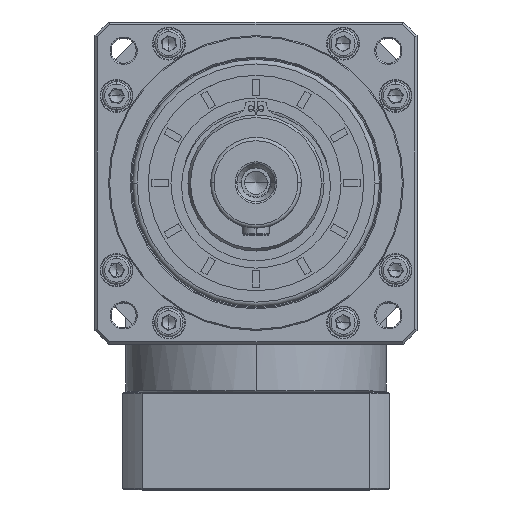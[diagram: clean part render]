
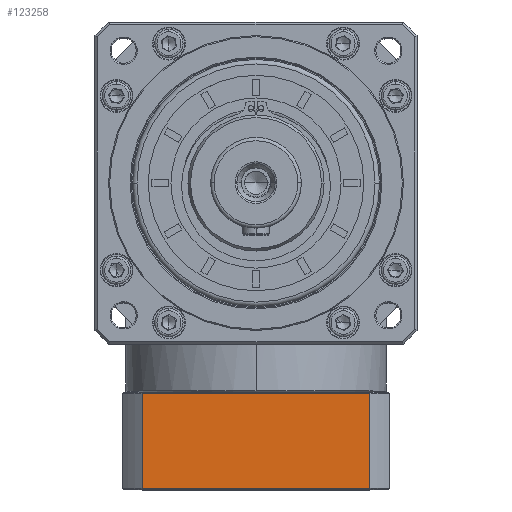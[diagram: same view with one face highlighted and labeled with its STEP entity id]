
A CAD part, top view. The second image highlights one B-rep face of the part: STEP entity #123258.
In plain terms, the highlighted planar face has unit normal (0, 0, 1).
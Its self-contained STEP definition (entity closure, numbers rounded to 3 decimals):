
#128 = CARTESIAN_POINT ( 'NONE',  ( -232.583, -128.663, 97.819 ) ) ;
#1309 = CARTESIAN_POINT ( 'NONE',  ( -132.079, 93.233, 97.819 ) ) ;
#3737 = LINE ( 'NONE', #93326, #150061 ) ;
#5082 = LINE ( 'NONE', #104527, #138143 ) ;
#6567 = DIRECTION ( 'NONE',  ( 1., 0., 0. ) ) ;
#15752 = ORIENTED_EDGE ( 'NONE', *, *, #129469, .F. ) ;
#18562 = VERTEX_POINT ( 'NONE', #147999 ) ;
#28909 = LINE ( 'NONE', #1309, #133135 ) ;
#30447 = DIRECTION ( 'NONE',  ( 0., -1., 0. ) ) ;
#36195 = DIRECTION ( 'NONE',  ( 0., 0., -1. ) ) ;
#38615 = VERTEX_POINT ( 'NONE', #128 ) ;
#40226 = DIRECTION ( 'NONE',  ( -1., 0., 0. ) ) ;
#42229 = ORIENTED_EDGE ( 'NONE', *, *, #66706, .F. ) ;
#42419 = AXIS2_PLACEMENT_3D ( 'NONE', #78290, #36195, #164983 ) ;
#50382 = ORIENTED_EDGE ( 'NONE', *, *, #117326, .F. ) ;
#54194 = EDGE_LOOP ( 'NONE', ( #50382, #15752, #42229, #159865 ) ) ;
#61965 = CARTESIAN_POINT ( 'NONE',  ( -132.079, -128.663, 97.819 ) ) ;
#66381 = EDGE_CURVE ( 'NONE', #18562, #82449, #94534, .T. ) ;
#66706 = EDGE_CURVE ( 'NONE', #82449, #38615, #3737, .T. ) ;
#78290 = CARTESIAN_POINT ( 'NONE',  ( -241.331, -171.163, 97.819 ) ) ;
#82449 = VERTEX_POINT ( 'NONE', #116458 ) ;
#84729 = CARTESIAN_POINT ( 'NONE',  ( -241.331, -170.663, 97.819 ) ) ;
#91426 = DIRECTION ( 'NONE',  ( 0., 1., 0. ) ) ;
#93326 = CARTESIAN_POINT ( 'NONE',  ( -232.583, -171.163, 97.819 ) ) ;
#94534 = LINE ( 'NONE', #84729, #123421 ) ;
#104527 = CARTESIAN_POINT ( 'NONE',  ( -241.331, -128.663, 97.819 ) ) ;
#108699 = PLANE ( 'NONE',  #42419 ) ;
#110042 = FACE_OUTER_BOUND ( 'NONE', #54194, .T. ) ;
#116458 = CARTESIAN_POINT ( 'NONE',  ( -232.583, -170.663, 97.819 ) ) ;
#117326 = EDGE_CURVE ( 'NONE', #136483, #18562, #28909, .T. ) ;
#123258 = ADVANCED_FACE ( 'NONE', ( #110042 ), #108699, .F. ) ;
#123421 = VECTOR ( 'NONE', #40226, 1000. ) ;
#129469 = EDGE_CURVE ( 'NONE', #38615, #136483, #5082, .T. ) ;
#133135 = VECTOR ( 'NONE', #30447, 1000. ) ;
#136483 = VERTEX_POINT ( 'NONE', #61965 ) ;
#138143 = VECTOR ( 'NONE', #6567, 1000. ) ;
#147999 = CARTESIAN_POINT ( 'NONE',  ( -132.079, -170.663, 97.819 ) ) ;
#150061 = VECTOR ( 'NONE', #91426, 1000. ) ;
#159865 = ORIENTED_EDGE ( 'NONE', *, *, #66381, .F. ) ;
#164983 = DIRECTION ( 'NONE',  ( -1., 0., 0. ) ) ;
